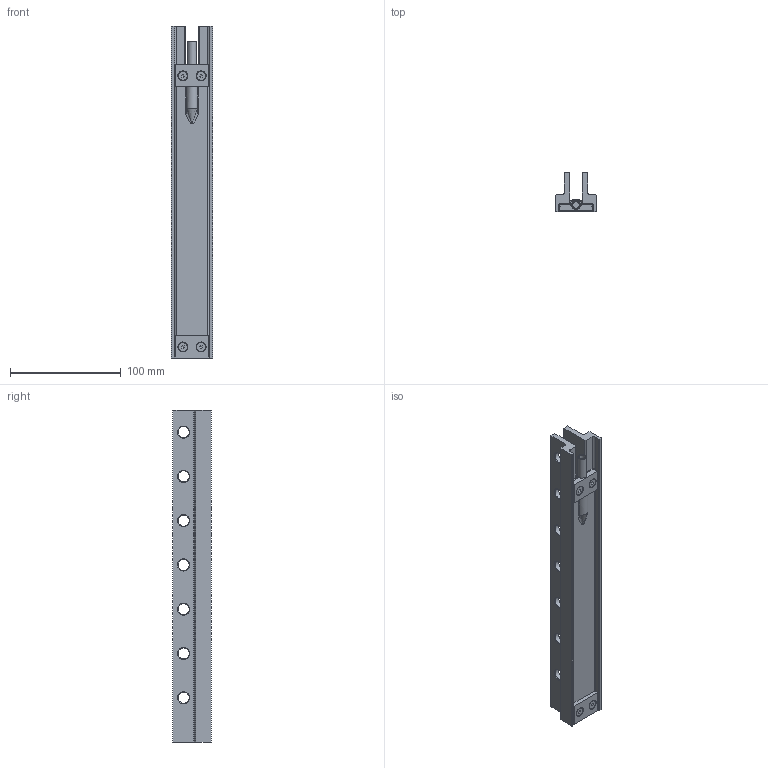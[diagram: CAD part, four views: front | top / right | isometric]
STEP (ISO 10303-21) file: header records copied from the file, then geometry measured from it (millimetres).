
FILE_DESCRIPTION(/* description */ (''),/* implementation_level */ '2;1');
FILE_NAME(/* name */ 'Z:\Standard products\3. Die Lifters\5. DAR - Ball Die Lifter air\DAR22-Min. Height (10-03-17).stp',/* time_stamp */ '2017-03-10T10:17:20+01:00',/* author */ ('breep'),/* organization */ (''),/* preprocessor_version */ 'ST-DEVELOPER v16.1',/* originating_system */ 'Autodesk Inventor 2016',/* authorisation */ '');
FILE_SCHEMA (('AUTOMOTIVE_DESIGN { 1 0 10303 214 3 1 1 }'));
Length unit declared in the file: millimetre
Products named in the file (1): Part1
Bounding box: 37.5 x 35 x 300 mm (x, y, z)
Volume: 162637.5 mm3; surface area: 68775 mm2
Topology: 1 solids, 8 shells, 207 faces, 560 edges, 368 vertices
Faces by surface type: plane 94, cylinder 73, cone 37, bspline 2, sphere 1
Full cylindrical faces by diameter (mm): 3.242 x4, 4 x4, 4.5 x4, 5 x4, 6 x1, 8 x5, 10 x14
Entity records: 6322 total; most frequent: CARTESIAN_POINT 1348, DIRECTION 988, ORIENTED_EDGE 882, EDGE_CURVE 441, AXIS2_PLACEMENT_3D 383, VERTEX_POINT 319, EDGE_LOOP 316, LINE 222
